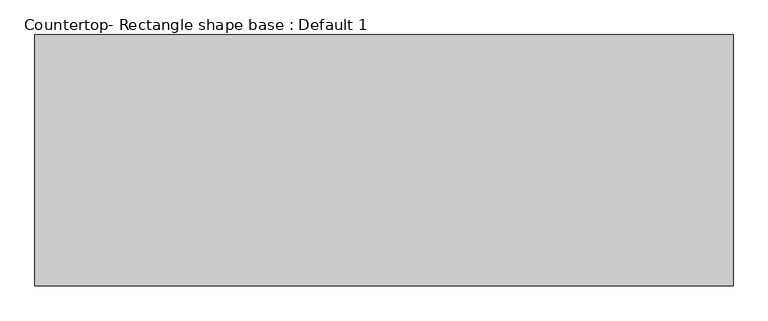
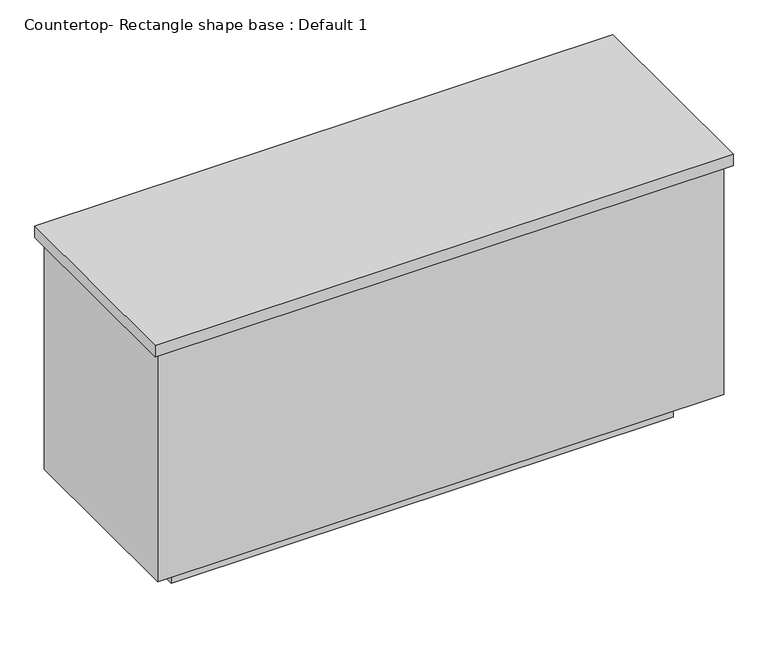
"""IFC4 building model written with IfcOpenShell, lengths in millimetres: proxy geometry, Countertop- Rectangle shape base : Default 1."""

import ifcopenshell
import ifcopenshell.guid

model = None  # the IFC model being written
_history = None  # IfcOwnerHistory: only IFC2X3 demands one
_inside = {}  # id of a spatial element -> (the spatial element, [elements in it])
_under = {}  # id of a project, library or spatial element -> (it, [spatial elements below it])
_declared = {}  # id of a project -> (the project, [libraries it declares])
_typed = {}  # id of a type object -> (the type object, [elements of that type])
_made_of = {}  # id of a material, layer set ... -> (it, [elements and type objects made of it])


def new_model(schema):
    """Start an empty IFC model of exactly this schema.

    Asked for "IFC4X3", IfcOpenShell would pick the latest addendum, in which some entities
    have other attributes; the version numbers below select the first issue.
    IFC2X3 requires an IfcOwnerHistory on every rooted entity: one is made here for all.
    """
    global model, _history
    if schema == "IFC4X3":
        model = ifcopenshell.file(schema_version=(4, 3, 0, 0))
    else:
        model = ifcopenshell.file(schema=schema)
    _inside.clear()
    _under.clear()
    _declared.clear()
    _typed.clear()
    _made_of.clear()
    _history = None
    if model.schema == "IFC2X3":
        org = make("IfcOrganization", Name="unknown")
        user = make(
            "IfcPersonAndOrganization",
            ThePerson=make("IfcPerson", FamilyName="unknown"),
            TheOrganization=org,
        )
        app = make(
            "IfcApplication",
            ApplicationDeveloper=org,
            Version="unknown",
            ApplicationFullName="unknown",
            ApplicationIdentifier="unknown",
        )
        _history = make(
            "IfcOwnerHistory",
            OwningUser=user,
            OwningApplication=app,
            ChangeAction="ADDED",
            CreationDate=0,
        )
    return model


def make(cls, **values):
    """One entity of the class cls with the attributes given. An attribute that is None is left unset."""
    return model.create_entity(
        cls, **{name: value for name, value in values.items() if value is not None}
    )


def rooted(cls, **values):
    """An entity with a GlobalId (a new one), such as an element, a storey or a relation."""
    return make(cls, GlobalId=ifcopenshell.guid.new(), OwnerHistory=_history, **values)


def si_unit(unit_type, name, prefix=None):
    """IfcSIUnit, for example si_unit("LENGTHUNIT", "METRE", prefix="MILLI")."""
    return make("IfcSIUnit", UnitType=unit_type, Prefix=prefix, Name=name)


def assignment(units):
    """IfcUnitAssignment: the units of a project."""
    return None if units is None else make("IfcUnitAssignment", Units=units)


def point(xyz):
    """IfcCartesianPoint."""
    return None if xyz is None else make("IfcCartesianPoint", Coordinates=xyz)


def direction(xyz):
    """IfcDirection."""
    return None if xyz is None else make("IfcDirection", DirectionRatios=xyz)


def frame(location, z_axis=None, x_axis=None):
    """IfcAxis2Placement3D, a coordinate frame: its origin and axes. An axis left out is left unset."""
    return make(
        "IfcAxis2Placement3D",
        Location=point(location),
        Axis=direction(z_axis),
        RefDirection=direction(x_axis),
    )


def origin():
    """The frame at (0, 0, 0) with its axes left unset."""
    return frame((0.0, 0.0, 0.0))


def origin_with_axes():
    """The frame at (0, 0, 0) with the z axis (0, 0, 1) and the x axis (1, 0, 0) written out."""
    return frame((0.0, 0.0, 0.0), z_axis=(0.0, 0.0, 1.0), x_axis=(1.0, 0.0, 0.0))


def place(relative_to, where):
    """IfcLocalPlacement: puts the frame where relative to a parent placement (None: the world)."""
    return make(
        "IfcLocalPlacement", PlacementRelTo=relative_to, RelativePlacement=where
    )


def context(
    kind, dimensions, precision=None, world=None, true_north=None, identifier=None
):
    """IfcGeometricRepresentationContext, for example the 3D "Model" context."""
    return make(
        "IfcGeometricRepresentationContext",
        ContextIdentifier=identifier,
        ContextType=kind,
        CoordinateSpaceDimension=dimensions,
        Precision=precision,
        WorldCoordinateSystem=world,
        TrueNorth=true_north,
    )


def project(units=None, contexts=None):
    """IfcProject with its units and contexts."""
    return rooted(
        "IfcProject",
        Name="project",
        RepresentationContexts=contexts,
        UnitsInContext=assignment(units),
    )


def spatial(cls, under=None, at=None, **own):
    """A site, building, storey or space (cls), placed at a placement, below another one or the project."""
    s = rooted(cls, ObjectPlacement=at, **own)
    if under is not None:
        _under.setdefault(under.id(), (under, []))[1].append(s)
    return s


def polyline(points):
    """IfcPolyline through the points."""
    return make("IfcPolyline", Points=[point(p) for p in points])


def outline(outer, holes=None, kind="AREA"):
    """IfcArbitraryClosedProfileDef: a profile drawn as a closed curve; with holes, ...WithVoids."""
    if holes is None:
        return make("IfcArbitraryClosedProfileDef", ProfileType=kind, OuterCurve=outer)
    return make(
        "IfcArbitraryProfileDefWithVoids",
        ProfileType=kind,
        OuterCurve=outer,
        InnerCurves=holes,
    )


def extrude(swept, where, along, depth):
    """IfcExtrudedAreaSolid: the profile swept, set in the frame where, extruded along a direction by depth."""
    return make(
        "IfcExtrudedAreaSolid",
        SweptArea=swept,
        Position=where,
        ExtrudedDirection=direction(along),
        Depth=depth,
    )


def shape(context_of_items, identifier, shape_type, items):
    """IfcShapeRepresentation: the items that make up one representation, for example the "Body"."""
    return make(
        "IfcShapeRepresentation",
        ContextOfItems=context_of_items,
        RepresentationIdentifier=identifier,
        RepresentationType=shape_type,
        Items=items,
    )


def source(mapping_origin, context_of_items, identifier, shape_type, items):
    """IfcRepresentationMap: a shape defined once, which mapped items show again and again."""
    return make(
        "IfcRepresentationMap",
        MappingOrigin=mapping_origin,
        MappedRepresentation=shape(context_of_items, identifier, shape_type, items),
    )


def transform(
    local_origin,
    x_axis=None,
    y_axis=None,
    z_axis=None,
    scale=None,
    scale2=None,
    scale3=None,
    uniform=True,
):
    """IfcCartesianTransformationOperator3D, or its non-uniform kind. x_axis, y_axis, z_axis: its Axis1, 2, 3."""
    if uniform:
        return make(
            "IfcCartesianTransformationOperator3D",
            Axis1=direction(x_axis),
            Axis2=direction(y_axis),
            LocalOrigin=point(local_origin),
            Scale=scale,
            Axis3=direction(z_axis),
        )
    return make(
        "IfcCartesianTransformationOperator3DnonUniform",
        Axis1=direction(x_axis),
        Axis2=direction(y_axis),
        LocalOrigin=point(local_origin),
        Scale=scale,
        Axis3=direction(z_axis),
        Scale2=scale2,
        Scale3=scale3,
    )


def mapped(mapping_source, mapping_target):
    """IfcMappedItem: shows the shape of a source again, moved by a transform."""
    return make(
        "IfcMappedItem", MappingSource=mapping_source, MappingTarget=mapping_target
    )


def made_of(thing, what):
    """Note that an element or type object is made of a material, layer set ...; save() writes the relation."""
    if what is not None:
        _made_of.setdefault(what.id(), (what, []))[1].append(thing)
    return thing


def element(
    cls,
    number,
    at=None,
    inside=None,
    cuts=None,
    type_object=None,
    material=None,
    context=None,
    identifier="Body",
    shape_type=None,
    held_by="IfcProductDefinitionShape",
    body=None,
    shapes=None,
    **own,
):
    """One element of the class cls, such as IfcWall. Its Tag is "e" and its number.

    at: its placement. inside: the storey or other place that contains it. cuts: it is an
    opening in that element (IfcRelVoidsElement). A single representation is given by context,
    identifier, shape_type and body (its items); several are given by shapes. held_by: the class
    of the entity that holds the representations. save() writes the other relations.
    """
    e = rooted(cls, Tag="e%d" % number, ObjectPlacement=at, **own)
    if body is not None:
        shapes = [shape(context, identifier, shape_type, body)]
    if shapes is not None:
        e.Representation = make(held_by, Representations=shapes)
    if inside is not None:
        _inside.setdefault(inside.id(), (inside, []))[1].append(e)
    if cuts is not None:
        rooted(
            "IfcRelVoidsElement", RelatingBuildingElement=cuts, RelatedOpeningElement=e
        )
    if type_object is not None:
        _typed.setdefault(type_object.id(), (type_object, []))[1].append(e)
    return made_of(e, material)


def aggregate(whole, parts):
    """IfcRelAggregates: a whole, such as a stair, and the parts it consists of."""
    return rooted("IfcRelAggregates", RelatingObject=whole, RelatedObjects=parts)


def save(model, path):
    """Write the relations noted so far, then the file.

    IfcRelAggregates (storeys below a building ...), IfcRelContainedInSpatialStructure (elements
    in a storey), IfcRelDefinesByType, IfcRelAssociatesMaterial and IfcRelDeclares: one each for
    every whole, place, type object, material and project.
    """
    for whole, parts in _under.values():
        aggregate(whole, parts)
    for where, things in _inside.values():
        rooted(
            "IfcRelContainedInSpatialStructure",
            RelatedElements=things,
            RelatingStructure=where,
        )
    for kind, things in _typed.values():
        rooted("IfcRelDefinesByType", RelatedObjects=things, RelatingType=kind)
    for what, things in _made_of.values():
        rooted("IfcRelAssociatesMaterial", RelatedObjects=things, RelatingMaterial=what)
    for by, libraries in _declared.values():
        rooted("IfcRelDeclares", RelatingContext=by, RelatedDefinitions=libraries)
    model.write(path)


def countertop_rectangle_shape_base_default_1_7ad85c83(model_context):
    return source(origin(), model_context, "Body", "SweptSolid", [
        extrude(outline(polyline([(-155.575, 50.8), (-155.575, 711.2), (1679.575, 711.2), (1679.575, 50.8), (-155.575, 50.8)])), frame((0.0, 0.0, 876.3), z_axis=(0.0, 0.0, 1.0), x_axis=(1.0, 0.0, 0.0)), (0.0, 0.0, 1.0), 38.1),
        extrude(outline(polyline([(1660.525, 692.15), (1660.525, 69.85), (-136.525, 69.85), (-136.525, 692.15), (1660.525, 692.15)])), frame((0.0, 0.0, 101.6), z_axis=(0.0, 0.0, 1.0), x_axis=(1.0, 0.0, 0.0)), (0.0, 0.0, 1.0), 774.7),
        extrude(outline(polyline([(1558.925, 590.55), (1558.925, 171.45), (-34.925, 171.45), (-34.925, 590.55), (1558.925, 590.55)])), origin_with_axes(), (0.0, 0.0, 1.0), 101.6),
    ])


if __name__ == "__main__":
    model = new_model("IFC4")
    model_context = context("Model", 3, world=origin())
    ifc_project = project(units=[si_unit("LENGTHUNIT", "METRE", prefix="MILLI")], contexts=[model_context])
    site = spatial("IfcSite", under=ifc_project)
    building = spatial("IfcBuilding", under=site)
    placement = place(None, origin())
    countertop_rectangle_shape_base_default_1_shape = countertop_rectangle_shape_base_default_1_7ad85c83(model_context)
    element("IfcBuildingElementProxy", 1, Name="Countertop- Rectangle shape base : Default 1", ObjectType="Countertop- Rectangle shape base : Default 1", at=placement, inside=building, context=model_context, shape_type="MappedRepresentation", body=[
        mapped(countertop_rectangle_shape_base_default_1_shape, transform((0.0, 0.0, 0.0), x_axis=(1.0, 0.0, 0.0), y_axis=(0.0, 1.0, 0.0), z_axis=(0.0, 0.0, 1.0))),
    ])
    save(model, "model.ifc")
